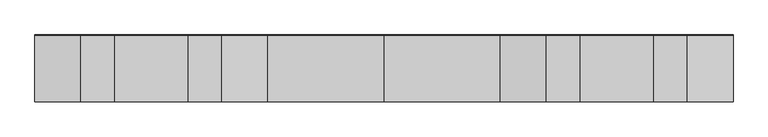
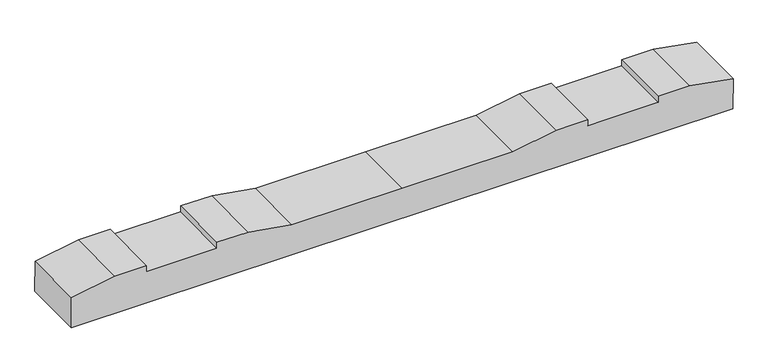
"""IFC4 building model written with IfcOpenShell, lengths in millimetres: proxy geometry, 轨枕-立面角度 : 轨枕-立面角度."""

from ifc_helpers import new_model, si_unit, frame, origin, place, context, project, spatial, polyline, outline, extrude, source, transform, mapped, element, save


def generic_models_e8be50a1(model_context):
    return source(origin(), model_context, "Body", "SweptSolid", [
        extrude(outline(polyline([(0.0, 0.0), (2099.7669328, 0.0), (2099.7669328, -100.0206889), (1961.8834664, -124.4999999), (1861.8834664, -124.4999999), (1861.8834664, -104.5), (1637.8834664, -104.5), (1637.8834664, -124.4999999), (1537.8834664, -124.4999999), (1399.8834664, -100.0), (1049.8834664, -100.0), (699.8834664, -100.0), (561.8834664, -124.4999999), (461.8834664, -124.4999999), (461.8834664, -104.5), (237.8834664, -104.5), (237.8834664, -124.4999999), (137.8834664, -124.4999999), (0.0, -100.0206889), (0.0, 0.0)])), frame((-1049.8834664, -99.3235628, -105.1431399), z_axis=(0.0, 0.9999791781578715, 0.006453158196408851), x_axis=(1.0, 0.0, 0.0)), (0.0, 0.0, 1.0), 200.0),
    ])


if __name__ == "__main__":
    model = new_model("IFC4")
    model_context = context("Model", 3, world=origin())
    ifc_project = project(units=[si_unit("LENGTHUNIT", "METRE", prefix="MILLI")], contexts=[model_context])
    site = spatial("IfcSite", under=ifc_project)
    building = spatial("IfcBuilding", under=site)
    placement = place(None, origin())
    generic_models_shape = generic_models_e8be50a1(model_context)
    element("IfcBuildingElementProxy", 1, Name="轨枕-立面角度 : 轨枕-立面角度", ObjectType="轨枕-立面角度 : 轨枕-立面角度", at=placement, inside=building, context=model_context, shape_type="MappedRepresentation", body=[
        mapped(generic_models_shape, transform((0.0, 0.0, 0.0), x_axis=(1.0, 0.0, 0.0), y_axis=(0.0, 1.0, 0.0), z_axis=(0.0, 0.0, 1.0))),
    ])
    save(model, "model.ifc")
